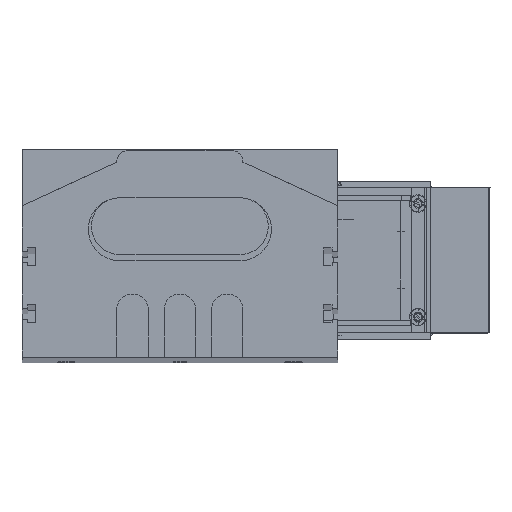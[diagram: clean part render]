
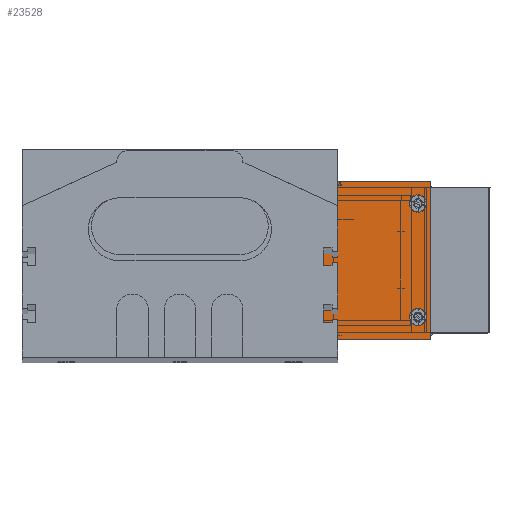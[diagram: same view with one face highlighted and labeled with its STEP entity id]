
A CAD part, top view. The second image highlights one B-rep face of the part: STEP entity #23528.
In plain terms, the highlighted planar face has unit normal (0, 0, 1) as drawn and (0, -1, 0) by its records, which use the part's own axes.
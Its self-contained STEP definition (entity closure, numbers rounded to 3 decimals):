
#12870 = CARTESIAN_POINT ( 'NONE',  ( -39., -2., 12.75 ) ) ;
#12949 = CARTESIAN_POINT ( 'NONE',  ( -39., -2., 7.25 ) ) ;
#13049 = CARTESIAN_POINT ( 'NONE',  ( 20.2, -2., 20.75 ) ) ;
#13050 = CARTESIAN_POINT ( 'NONE',  ( 20.2, -2., 15.25 ) ) ;
#13078 = CARTESIAN_POINT ( 'NONE',  ( -39., -2., -7.25 ) ) ;
#13090 = CARTESIAN_POINT ( 'NONE',  ( -39., -2., -10. ) ) ;
#13114 = CARTESIAN_POINT ( 'NONE',  ( -39., -2., -12.75 ) ) ;
#13119 = DIRECTION ( 'NONE',  ( 0., 0., -1. ) ) ;
#13120 = DIRECTION ( 'NONE',  ( 0., -1., 0. ) ) ;
#13121 = CARTESIAN_POINT ( 'NONE',  ( -39., -2., 10. ) ) ;
#13122 = AXIS2_PLACEMENT_3D ( 'NONE', #13121, #13120, #13119 ) ;
#13123 = CIRCLE ( 'NONE', #13169, 2.75 ) ;
#13126 = DIRECTION ( 'NONE',  ( 0., 0., -1. ) ) ;
#13127 = DIRECTION ( 'NONE',  ( 0., -1., 0. ) ) ;
#13128 = AXIS2_PLACEMENT_3D ( 'NONE', #13090, #13127, #13126 ) ;
#13130 = CIRCLE ( 'NONE', #13122, 2.75 ) ;
#13141 = CIRCLE ( 'NONE', #13128, 2.75 ) ;
#13166 = DIRECTION ( 'NONE',  ( 0., 0., -1. ) ) ;
#13167 = DIRECTION ( 'NONE',  ( 0., -1., 0. ) ) ;
#13168 = CARTESIAN_POINT ( 'NONE',  ( 20.2, -2., -18. ) ) ;
#13169 = AXIS2_PLACEMENT_3D ( 'NONE', #13168, #13167, #13166 ) ;
#13171 = CARTESIAN_POINT ( 'NONE',  ( 20.2, -2., -20.75 ) ) ;
#13175 = CARTESIAN_POINT ( 'NONE',  ( 20.2, -2., -15.25 ) ) ;
#13184 = CARTESIAN_POINT ( 'NONE',  ( 20.2, -2., -18. ) ) ;
#13186 = DIRECTION ( 'NONE',  ( 0., 0., -1. ) ) ;
#13187 = DIRECTION ( 'NONE',  ( 0., -1., 0. ) ) ;
#13188 = CARTESIAN_POINT ( 'NONE',  ( 20.2, -2., 18. ) ) ;
#13196 = AXIS2_PLACEMENT_3D ( 'NONE', #13188, #13187, #13186 ) ;
#13197 = DIRECTION ( 'NONE',  ( 0., -1., 0. ) ) ;
#13198 = DIRECTION ( 'NONE',  ( 0., 0., -1. ) ) ;
#13199 = DIRECTION ( 'NONE',  ( 0., -1., 0. ) ) ;
#13200 = CARTESIAN_POINT ( 'NONE',  ( 20.2, -2., 18. ) ) ;
#13204 = CIRCLE ( 'NONE', #13208, 2.75 ) ;
#13206 = CIRCLE ( 'NONE', #13196, 2.75 ) ;
#13208 = AXIS2_PLACEMENT_3D ( 'NONE', #13200, #13199, #13198 ) ;
#13213 = CARTESIAN_POINT ( 'NONE',  ( -39., -2., -10. ) ) ;
#13214 = FACE_BOUND ( 'NONE', #23598, .T. ) ;
#13215 = FACE_BOUND ( 'NONE', #23467, .T. ) ;
#13216 = FACE_BOUND ( 'NONE', #23427, .T. ) ;
#13217 = DIRECTION ( 'NONE',  ( 0., 0., 1. ) ) ;
#13218 = VECTOR ( 'NONE', #13217, 1000. ) ;
#13219 = CARTESIAN_POINT ( 'NONE',  ( -42., -2., -25. ) ) ;
#13220 = LINE ( 'NONE', #13219, #13218 ) ;
#13223 = FACE_OUTER_BOUND ( 'NONE', #23695, .T. ) ;
#13227 = CIRCLE ( 'NONE', #13235, 2.75 ) ;
#13228 = DIRECTION ( 'NONE',  ( 0., -1., 0. ) ) ;
#13229 = DIRECTION ( 'NONE',  ( 0., 0., -1. ) ) ;
#13230 = AXIS2_PLACEMENT_3D ( 'NONE', #13184, #13197, #13229 ) ;
#13235 = AXIS2_PLACEMENT_3D ( 'NONE', #13213, #13228, #13281 ) ;
#13237 = CARTESIAN_POINT ( 'NONE',  ( -42., -2., 25. ) ) ;
#13238 = CIRCLE ( 'NONE', #13230, 2.75 ) ;
#13242 = CARTESIAN_POINT ( 'NONE',  ( -37., -2., 25. ) ) ;
#13243 = LINE ( 'NONE', #13242, #13280 ) ;
#13259 = DIRECTION ( 'NONE',  ( 0., 0., 1. ) ) ;
#13266 = AXIS2_PLACEMENT_3D ( 'NONE', #13279, #13276, #13259 ) ;
#13267 = DIRECTION ( 'NONE',  ( -1., 0., 0. ) ) ;
#13268 = VECTOR ( 'NONE', #13267, 1000. ) ;
#13269 = CARTESIAN_POINT ( 'NONE',  ( 37., -2., -25. ) ) ;
#13270 = PLANE ( 'NONE',  #13266 ) ;
#13273 = FACE_BOUND ( 'NONE', #23703, .T. ) ;
#13274 = DIRECTION ( 'NONE',  ( 1., 0., 0. ) ) ;
#13275 = LINE ( 'NONE', #13269, #13268 ) ;
#13276 = DIRECTION ( 'NONE',  ( 0., 1., 0. ) ) ;
#13277 = CARTESIAN_POINT ( 'NONE',  ( 24., -2., 25. ) ) ;
#13279 = CARTESIAN_POINT ( 'NONE',  ( 37., -2., -25. ) ) ;
#13280 = VECTOR ( 'NONE', #13274, 1000. ) ;
#13281 = DIRECTION ( 'NONE',  ( 0., 0., -1. ) ) ;
#13283 = CARTESIAN_POINT ( 'NONE',  ( -42., -2., -25. ) ) ;
#13287 = DIRECTION ( 'NONE',  ( 0., 0., -1. ) ) ;
#13288 = VECTOR ( 'NONE', #13287, 1000. ) ;
#13292 = DIRECTION ( 'NONE',  ( 0., 0., -1. ) ) ;
#13293 = DIRECTION ( 'NONE',  ( 0., -1., 0. ) ) ;
#13294 = CARTESIAN_POINT ( 'NONE',  ( 24., -2., 25. ) ) ;
#13295 = LINE ( 'NONE', #13294, #13288 ) ;
#13302 = AXIS2_PLACEMENT_3D ( 'NONE', #13308, #13293, #13292 ) ;
#13303 = CIRCLE ( 'NONE', #13302, 2.75 ) ;
#13307 = CARTESIAN_POINT ( 'NONE',  ( 24., -2., -25. ) ) ;
#13308 = CARTESIAN_POINT ( 'NONE',  ( -39., -2., 10. ) ) ;
#21838 = VERTEX_POINT ( 'NONE', #12870 ) ;
#22245 = VERTEX_POINT ( 'NONE', #12949 ) ;
#22686 = VERTEX_POINT ( 'NONE', #13050 ) ;
#22687 = VERTEX_POINT ( 'NONE', #13049 ) ;
#22720 = VERTEX_POINT ( 'NONE', #13114 ) ;
#22842 = VERTEX_POINT ( 'NONE', #13078 ) ;
#22847 = EDGE_CURVE ( 'NONE', #22842, #22720, #13141, .T. ) ;
#22850 = EDGE_CURVE ( 'NONE', #21838, #22245, #13130, .T. ) ;
#22950 = EDGE_CURVE ( 'NONE', #23051, #23003, #13123, .T. ) ;
#23003 = VERTEX_POINT ( 'NONE', #13171 ) ;
#23051 = VERTEX_POINT ( 'NONE', #13175 ) ;
#23243 = EDGE_CURVE ( 'NONE', #22686, #22687, #13204, .T. ) ;
#23263 = EDGE_CURVE ( 'NONE', #22687, #22686, #13206, .T. ) ;
#23417 = ORIENTED_EDGE ( 'NONE', *, *, #22950, .F. ) ;
#23419 = VERTEX_POINT ( 'NONE', #13237 ) ;
#23420 = EDGE_CURVE ( 'NONE', #23003, #23051, #13238, .T. ) ;
#23427 = EDGE_LOOP ( 'NONE', ( #23537, #23495 ) ) ;
#23428 = ORIENTED_EDGE ( 'NONE', *, *, #23420, .F. ) ;
#23453 = EDGE_CURVE ( 'NONE', #23479, #23419, #13220, .T. ) ;
#23457 = EDGE_CURVE ( 'NONE', #22720, #22842, #13227, .T. ) ;
#23467 = EDGE_LOOP ( 'NONE', ( #23428, #23417 ) ) ;
#23469 = ORIENTED_EDGE ( 'NONE', *, *, #23453, .F. ) ;
#23479 = VERTEX_POINT ( 'NONE', #13283 ) ;
#23481 = EDGE_CURVE ( 'NONE', #23419, #23484, #13243, .T. ) ;
#23484 = VERTEX_POINT ( 'NONE', #13277 ) ;
#23489 = ORIENTED_EDGE ( 'NONE', *, *, #23481, .F. ) ;
#23490 = EDGE_CURVE ( 'NONE', #23665, #23479, #13275, .T. ) ;
#23495 = ORIENTED_EDGE ( 'NONE', *, *, #22847, .F. ) ;
#23504 = ORIENTED_EDGE ( 'NONE', *, *, #22850, .F. ) ;
#23528 = ADVANCED_FACE ( 'NONE', ( #13223, #13273, #13216, #13215, #13214 ), #13270, .F. ) ;
#23537 = ORIENTED_EDGE ( 'NONE', *, *, #23457, .F. ) ;
#23538 = ORIENTED_EDGE ( 'NONE', *, *, #23606, .F. ) ;
#23570 = ORIENTED_EDGE ( 'NONE', *, *, #23618, .F. ) ;
#23577 = ORIENTED_EDGE ( 'NONE', *, *, #23490, .F. ) ;
#23598 = EDGE_LOOP ( 'NONE', ( #23656, #23782 ) ) ;
#23606 = EDGE_CURVE ( 'NONE', #22245, #21838, #13303, .T. ) ;
#23618 = EDGE_CURVE ( 'NONE', #23484, #23665, #13295, .T. ) ;
#23656 = ORIENTED_EDGE ( 'NONE', *, *, #23243, .F. ) ;
#23665 = VERTEX_POINT ( 'NONE', #13307 ) ;
#23695 = EDGE_LOOP ( 'NONE', ( #23570, #23489, #23469, #23577 ) ) ;
#23703 = EDGE_LOOP ( 'NONE', ( #23538, #23504 ) ) ;
#23782 = ORIENTED_EDGE ( 'NONE', *, *, #23263, .F. ) ;
